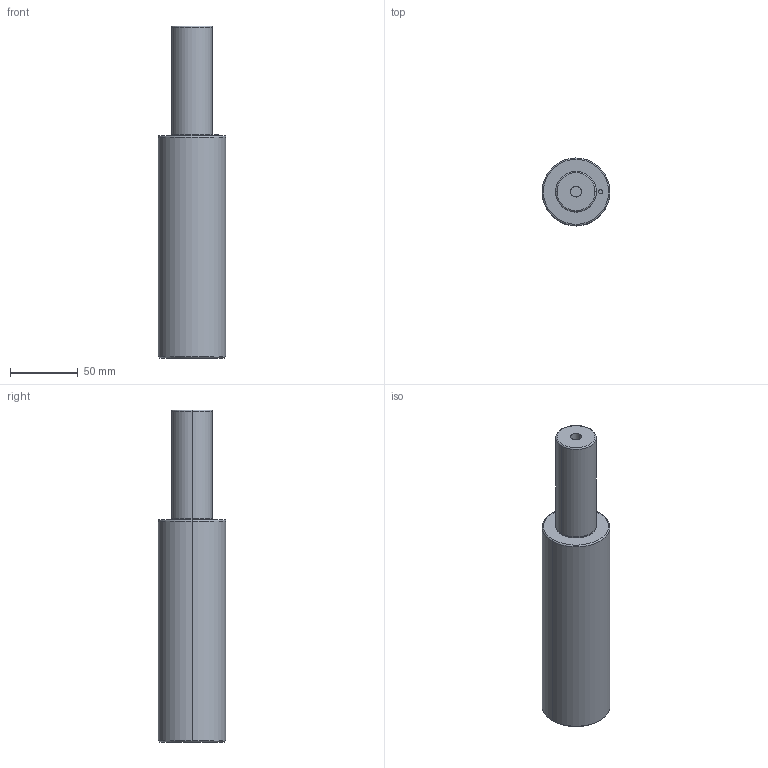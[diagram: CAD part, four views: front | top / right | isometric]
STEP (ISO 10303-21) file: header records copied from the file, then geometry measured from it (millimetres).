
FILE_DESCRIPTION(/* description */ (''),/* implementation_level */ '2;1');
FILE_NAME(/* name */ '3d_gssr50-80_03957_r00.stp',/* time_stamp */ '2011-01-10T14:15:14+09:00',/* author */ ('MISUMI'),/* organization */ (''),/* preprocessor_version */ 'ST-DEVELOPER v11',/* originating_system */ 'UGS - NX 5.0',/* authorisation */ '');
FILE_SCHEMA (('CONFIG_CONTROL_DESIGN'));
Length unit declared in the file: millimetre
Products named in the file (1): 3d_gssr50-80_03957_r00
Bounding box: 50 x 50 x 245 mm (x, y, z)
Volume: 372857.4 mm3; surface area: 40292.9 mm2
Topology: 1 solids, 1 shells, 42 faces, 88 edges, 51 vertices
Faces by surface type: cylinder 22, plane 8, cone 8, torus 4
Entity records: 1176 total; most frequent: DIRECTION 220, CARTESIAN_POINT 176, ORIENTED_EDGE 164, AXIS2_PLACEMENT_3D 95, EDGE_CURVE 82, CIRCLE 52, EDGE_LOOP 51, VERTEX_POINT 51
